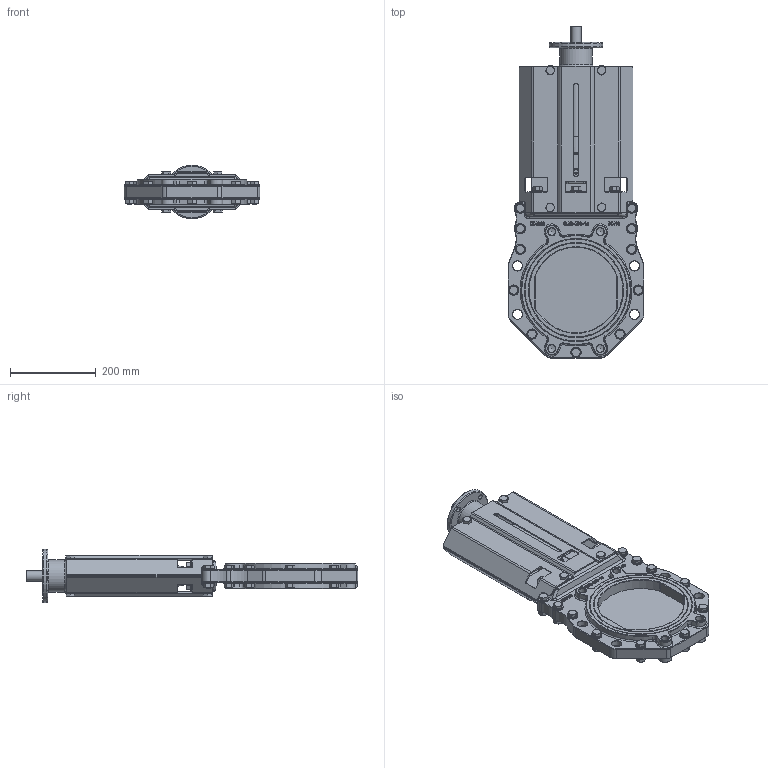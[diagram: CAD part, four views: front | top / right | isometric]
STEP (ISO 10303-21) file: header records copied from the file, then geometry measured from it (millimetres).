
FILE_DESCRIPTION(/* description */ (''),/* implementation_level */ '2;1');
FILE_NAME(/* name */ 'Rising stem knife gate valve with top flange DN200-10.stp',/* time_stamp */ '2025-04-21T17:16:12+08:00',/* author */ (''),/* organization */ (''),/* preprocessor_version */ 'ST-DEVELOPER v15',/* originating_system */ 'SIEMENS PLM Software NX 10.0',/* authorisation */ '');
FILE_SCHEMA (('AP203_CONFIGURATION_CONTROLLED_3D_DESIGN_OF_MECHANICAL_PARTS_AND_ASSEMBLIES_MIM_LF { 1 0 10303 403 2 1 2}'));
Products named in the file (1): Admi256412D81nwg
Bounding box: 316.54 x 773.7 x 125 mm (x, y, z)
Volume: 4826530.3 mm3; surface area: 952623 mm2
Topology: 1 solids, 27 shells, 2476 faces, 6019 edges, 3757 vertices
Faces by surface type: plane 995, cylinder 580, extrusion 264, cone 257, torus 180, bspline 176, sphere 24
Full cylindrical faces by diameter (mm): 2 x4, 5.2 x1, 10.106 x6, 10.5 x2, 11.053 x15, 11.5 x4, 12 x28, 13 x32, 17.2 x19, 17.294 x8, 18 x2, 20 x6, 23 x8, 24 x29, 25 x1, 40 x1, 66 x1, 73 x1, 76 x1, 125 x1
Entity records: 75972 total; most frequent: CARTESIAN_POINT 22174, ORIENTED_EDGE 11156, DIRECTION 9824, EDGE_CURVE 5578, VERTEX_POINT 3671, AXIS2_PLACEMENT_3D 3580, EDGE_LOOP 3097, VECTOR 2664
